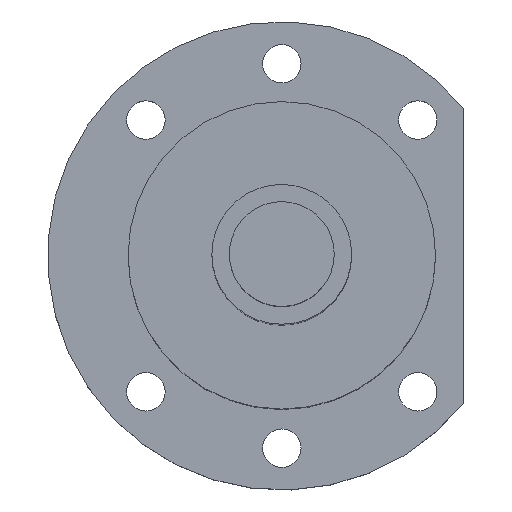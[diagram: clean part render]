
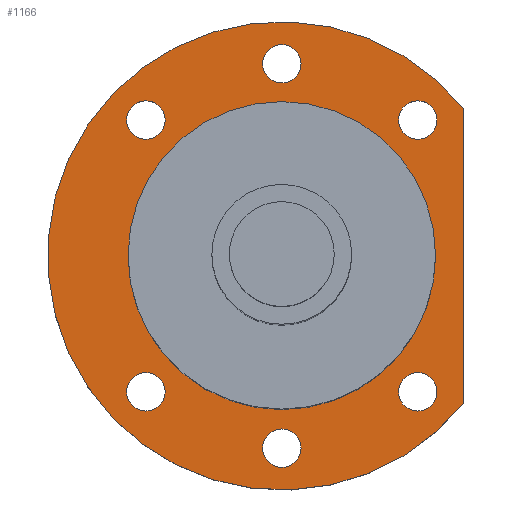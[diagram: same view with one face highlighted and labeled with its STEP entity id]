
A CAD part, top view. The second image highlights one B-rep face of the part: STEP entity #1166.
In plain terms, the highlighted planar face has unit normal (0, 0, 1).
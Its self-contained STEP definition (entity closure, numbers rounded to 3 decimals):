
#162=CARTESIAN_POINT('',(19.445,19.445,181.5));
#163=DIRECTION('',(0.,0.,-1.));
#164=DIRECTION('',(1.,0.,0.));
#165=AXIS2_PLACEMENT_3D('',#162,#163,#164);
#167=CARTESIAN_POINT('',(19.445,19.445,181.5));
#168=DIRECTION('',(0.,0.,-1.));
#169=DIRECTION('',(-1.,0.,0.));
#170=AXIS2_PLACEMENT_3D('',#167,#168,#169);
#172=CARTESIAN_POINT('',(0.,27.5,181.5));
#173=DIRECTION('',(0.,0.,-1.));
#174=DIRECTION('',(1.,0.,0.));
#175=AXIS2_PLACEMENT_3D('',#172,#173,#174);
#177=CARTESIAN_POINT('',(0.,27.5,181.5));
#178=DIRECTION('',(0.,0.,-1.));
#179=DIRECTION('',(-1.,0.,0.));
#180=AXIS2_PLACEMENT_3D('',#177,#178,#179);
#182=CARTESIAN_POINT('',(-19.445,19.445,181.5));
#183=DIRECTION('',(0.,0.,-1.));
#184=DIRECTION('',(1.,0.,0.));
#185=AXIS2_PLACEMENT_3D('',#182,#183,#184);
#187=CARTESIAN_POINT('',(-19.445,19.445,181.5));
#188=DIRECTION('',(0.,0.,-1.));
#189=DIRECTION('',(-1.,0.,0.));
#190=AXIS2_PLACEMENT_3D('',#187,#188,#189);
#192=CARTESIAN_POINT('',(-19.445,-19.445,181.5));
#193=DIRECTION('',(0.,0.,-1.));
#194=DIRECTION('',(1.,0.,0.));
#195=AXIS2_PLACEMENT_3D('',#192,#193,#194);
#197=CARTESIAN_POINT('',(-19.445,-19.445,181.5));
#198=DIRECTION('',(0.,0.,-1.));
#199=DIRECTION('',(-1.,0.,0.));
#200=AXIS2_PLACEMENT_3D('',#197,#198,#199);
#202=CARTESIAN_POINT('',(0.,-27.5,181.5));
#203=DIRECTION('',(0.,0.,-1.));
#204=DIRECTION('',(1.,0.,0.));
#205=AXIS2_PLACEMENT_3D('',#202,#203,#204);
#207=CARTESIAN_POINT('',(0.,-27.5,181.5));
#208=DIRECTION('',(0.,0.,-1.));
#209=DIRECTION('',(-1.,0.,0.));
#210=AXIS2_PLACEMENT_3D('',#207,#208,#209);
#212=CARTESIAN_POINT('',(19.445,-19.445,181.5));
#213=DIRECTION('',(0.,0.,-1.));
#214=DIRECTION('',(1.,0.,0.));
#215=AXIS2_PLACEMENT_3D('',#212,#213,#214);
#217=CARTESIAN_POINT('',(19.445,-19.445,181.5));
#218=DIRECTION('',(0.,0.,-1.));
#219=DIRECTION('',(-1.,0.,0.));
#220=AXIS2_PLACEMENT_3D('',#217,#218,#219);
#222=CARTESIAN_POINT('',(0.,0.,181.5));
#223=DIRECTION('',(0.,0.,1.));
#224=DIRECTION('',(0.776,0.631,0.));
#225=AXIS2_PLACEMENT_3D('',#222,#223,#224);
#227=DIRECTION('',(0.,1.,0.));
#228=VECTOR('',#227,42.249);
#229=CARTESIAN_POINT('',(26.,-21.125,181.5));
#230=LINE('',#229,#228);
#231=CARTESIAN_POINT('',(0.,0.,181.5));
#232=DIRECTION('',(0.,0.,1.));
#233=DIRECTION('',(0.,-1.,0.));
#234=AXIS2_PLACEMENT_3D('',#231,#232,#233);
#236=CARTESIAN_POINT('',(0.,0.,181.5));
#237=DIRECTION('',(0.,0.,1.));
#238=DIRECTION('',(0.,1.,0.));
#239=AXIS2_PLACEMENT_3D('',#236,#237,#238);
#751=CARTESIAN_POINT('',(22.195,19.445,181.5));
#752=CARTESIAN_POINT('',(16.695,19.445,181.5));
#753=VERTEX_POINT('',#751);
#754=VERTEX_POINT('',#752);
#755=CARTESIAN_POINT('',(2.75,27.5,181.5));
#756=CARTESIAN_POINT('',(-2.75,27.5,181.5));
#757=VERTEX_POINT('',#755);
#758=VERTEX_POINT('',#756);
#759=CARTESIAN_POINT('',(-16.695,19.445,181.5));
#760=CARTESIAN_POINT('',(-22.195,19.445,181.5));
#761=VERTEX_POINT('',#759);
#762=VERTEX_POINT('',#760);
#763=CARTESIAN_POINT('',(-16.695,-19.445,181.5));
#764=CARTESIAN_POINT('',(-22.195,-19.445,181.5));
#765=VERTEX_POINT('',#763);
#766=VERTEX_POINT('',#764);
#767=CARTESIAN_POINT('',(2.75,-27.5,181.5));
#768=CARTESIAN_POINT('',(-2.75,-27.5,181.5));
#769=VERTEX_POINT('',#767);
#770=VERTEX_POINT('',#768);
#771=CARTESIAN_POINT('',(22.195,-19.445,181.5));
#772=CARTESIAN_POINT('',(16.695,-19.445,181.5));
#773=VERTEX_POINT('',#771);
#774=VERTEX_POINT('',#772);
#775=CARTESIAN_POINT('',(26.,21.125,181.5));
#776=CARTESIAN_POINT('',(26.,-21.125,181.5));
#777=VERTEX_POINT('',#775);
#778=VERTEX_POINT('',#776);
#859=CARTESIAN_POINT('',(0.,-22.,181.5));
#860=CARTESIAN_POINT('',(0.,22.,181.5));
#861=VERTEX_POINT('',#859);
#862=VERTEX_POINT('',#860);
#1115=CARTESIAN_POINT('',(0.,0.,181.5));
#1116=DIRECTION('',(0.,0.,1.));
#1117=DIRECTION('',(1.,0.,0.));
#1118=AXIS2_PLACEMENT_3D('',#1115,#1116,#1117);
#1119=PLANE('',#1118);
#1120=ORIENTED_EDGE('',*,*,#1095,.F.);
#1121=ORIENTED_EDGE('',*,*,#1109,.F.);
#1122=EDGE_LOOP('',(#1120,#1121));
#1123=FACE_OUTER_BOUND('',#1122,.F.);
#1125=ORIENTED_EDGE('',*,*,#1124,.F.);
#1127=ORIENTED_EDGE('',*,*,#1126,.F.);
#1128=EDGE_LOOP('',(#1125,#1127));
#1129=FACE_BOUND('',#1128,.F.);
#1131=ORIENTED_EDGE('',*,*,#1130,.F.);
#1133=ORIENTED_EDGE('',*,*,#1132,.F.);
#1134=EDGE_LOOP('',(#1131,#1133));
#1135=FACE_BOUND('',#1134,.F.);
#1137=ORIENTED_EDGE('',*,*,#1136,.F.);
#1139=ORIENTED_EDGE('',*,*,#1138,.F.);
#1140=EDGE_LOOP('',(#1137,#1139));
#1141=FACE_BOUND('',#1140,.F.);
#1143=ORIENTED_EDGE('',*,*,#1142,.F.);
#1145=ORIENTED_EDGE('',*,*,#1144,.F.);
#1146=EDGE_LOOP('',(#1143,#1145));
#1147=FACE_BOUND('',#1146,.F.);
#1149=ORIENTED_EDGE('',*,*,#1148,.F.);
#1151=ORIENTED_EDGE('',*,*,#1150,.F.);
#1152=EDGE_LOOP('',(#1149,#1151));
#1153=FACE_BOUND('',#1152,.F.);
#1155=ORIENTED_EDGE('',*,*,#1154,.F.);
#1157=ORIENTED_EDGE('',*,*,#1156,.F.);
#1158=EDGE_LOOP('',(#1155,#1157));
#1159=FACE_BOUND('',#1158,.F.);
#1161=ORIENTED_EDGE('',*,*,#1160,.T.);
#1163=ORIENTED_EDGE('',*,*,#1162,.T.);
#1164=EDGE_LOOP('',(#1161,#1163));
#1165=FACE_BOUND('',#1164,.F.);
#1166=ADVANCED_FACE('',(#1123,#1129,#1135,#1141,#1147,#1153,#1159,#1165),#1119,
.T.);
#166=CIRCLE('',#165,2.75);
#171=CIRCLE('',#170,2.75);
#176=CIRCLE('',#175,2.75);
#181=CIRCLE('',#180,2.75);
#186=CIRCLE('',#185,2.75);
#191=CIRCLE('',#190,2.75);
#196=CIRCLE('',#195,2.75);
#201=CIRCLE('',#200,2.75);
#206=CIRCLE('',#205,2.75);
#211=CIRCLE('',#210,2.75);
#216=CIRCLE('',#215,2.75);
#221=CIRCLE('',#220,2.75);
#226=CIRCLE('',#225,33.5);
#235=CIRCLE('',#234,22.);
#240=CIRCLE('',#239,22.);
#1095=EDGE_CURVE('',#777,#778,#226,.T.);
#1109=EDGE_CURVE('',#778,#777,#230,.T.);
#1124=EDGE_CURVE('',#753,#754,#166,.T.);
#1126=EDGE_CURVE('',#754,#753,#171,.T.);
#1130=EDGE_CURVE('',#757,#758,#176,.T.);
#1132=EDGE_CURVE('',#758,#757,#181,.T.);
#1136=EDGE_CURVE('',#761,#762,#186,.T.);
#1138=EDGE_CURVE('',#762,#761,#191,.T.);
#1142=EDGE_CURVE('',#765,#766,#196,.T.);
#1144=EDGE_CURVE('',#766,#765,#201,.T.);
#1148=EDGE_CURVE('',#769,#770,#206,.T.);
#1150=EDGE_CURVE('',#770,#769,#211,.T.);
#1154=EDGE_CURVE('',#773,#774,#216,.T.);
#1156=EDGE_CURVE('',#774,#773,#221,.T.);
#1160=EDGE_CURVE('',#861,#862,#235,.T.);
#1162=EDGE_CURVE('',#862,#861,#240,.T.);
